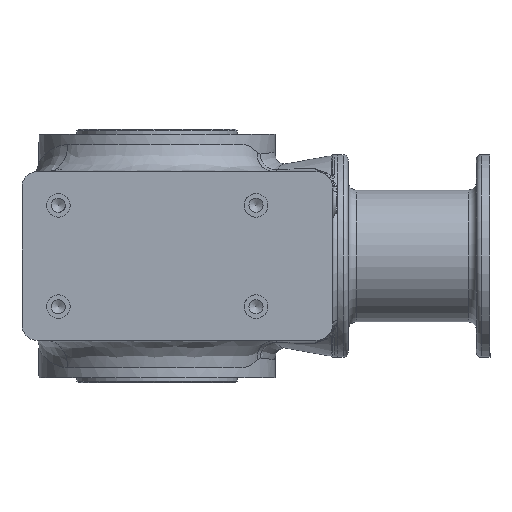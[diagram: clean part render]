
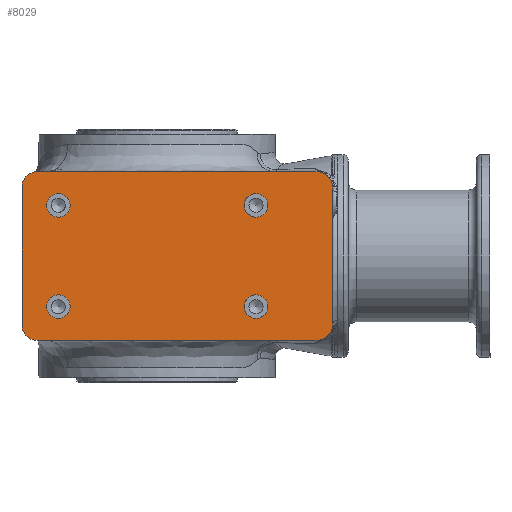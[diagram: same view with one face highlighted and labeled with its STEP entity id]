
A CAD part, front view. The second image highlights one B-rep face of the part: STEP entity #8029.
In plain terms, the highlighted planar face has unit normal (0, -1, 0).
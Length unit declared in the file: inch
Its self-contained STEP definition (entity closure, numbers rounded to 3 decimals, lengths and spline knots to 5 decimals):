
#658=LINE('',#15409,#853);
#664=LINE('',#15854,#859);
#665=LINE('',#15856,#860);
#666=LINE('',#15860,#861);
#853=VECTOR('',#9892,6.49606);
#859=VECTOR('',#10058,6.49606);
#860=VECTOR('',#10059,3.22835);
#861=VECTOR('',#10064,3.14961);
#1085=FACE_BOUND('',#2201,.T.);
#1086=FACE_BOUND('',#2202,.T.);
#1087=FACE_BOUND('',#2203,.T.);
#1088=FACE_BOUND('',#2204,.T.);
#1589=FACE_OUTER_BOUND('',#2200,.T.);
#2200=EDGE_LOOP('',(#5750,#5751,#5752,#5753,#5754,#5755,#5756,#5757));
#2201=EDGE_LOOP('',(#5758));
#2202=EDGE_LOOP('',(#5759));
#2203=EDGE_LOOP('',(#5760));
#2204=EDGE_LOOP('',(#5761));
#2769=CIRCLE('',#8483,0.35433);
#2921=CIRCLE('',#8729,0.3937);
#2922=CIRCLE('',#8731,0.35433);
#2923=CIRCLE('',#8732,0.3937);
#2924=CIRCLE('',#8733,0.27559);
#2925=CIRCLE('',#8734,0.27559);
#2926=CIRCLE('',#8735,0.27559);
#2927=CIRCLE('',#8736,0.27559);
#3314=VERTEX_POINT('',#11545);
#3315=VERTEX_POINT('',#11547);
#3504=VERTEX_POINT('',#15406);
#3505=VERTEX_POINT('',#15408);
#3548=VERTEX_POINT('',#15848);
#3549=VERTEX_POINT('',#15850);
#3550=VERTEX_POINT('',#15855);
#3551=VERTEX_POINT('',#15858);
#3552=VERTEX_POINT('',#15861);
#3553=VERTEX_POINT('',#15863);
#3554=VERTEX_POINT('',#15865);
#3555=VERTEX_POINT('',#15867);
#4057=EDGE_CURVE('',#3314,#3315,#2769,.T.);
#4330=EDGE_CURVE('',#3504,#3505,#658,.T.);
#4389=EDGE_CURVE('',#3548,#3549,#2921,.T.);
#4391=EDGE_CURVE('',#3548,#3315,#664,.T.);
#4392=EDGE_CURVE('',#3550,#3314,#665,.T.);
#4393=EDGE_CURVE('',#3505,#3550,#2922,.T.);
#4394=EDGE_CURVE('',#3551,#3504,#2923,.T.);
#4395=EDGE_CURVE('',#3551,#3549,#666,.T.);
#4396=EDGE_CURVE('',#3552,#3552,#2924,.T.);
#4397=EDGE_CURVE('',#3553,#3553,#2925,.T.);
#4398=EDGE_CURVE('',#3554,#3554,#2926,.T.);
#4399=EDGE_CURVE('',#3555,#3555,#2927,.T.);
#5750=ORIENTED_EDGE('',*,*,#4389,.F.);
#5751=ORIENTED_EDGE('',*,*,#4391,.T.);
#5752=ORIENTED_EDGE('',*,*,#4057,.F.);
#5753=ORIENTED_EDGE('',*,*,#4392,.F.);
#5754=ORIENTED_EDGE('',*,*,#4393,.F.);
#5755=ORIENTED_EDGE('',*,*,#4330,.F.);
#5756=ORIENTED_EDGE('',*,*,#4394,.F.);
#5757=ORIENTED_EDGE('',*,*,#4395,.T.);
#5758=ORIENTED_EDGE('',*,*,#4396,.T.);
#5759=ORIENTED_EDGE('',*,*,#4397,.T.);
#5760=ORIENTED_EDGE('',*,*,#4398,.T.);
#5761=ORIENTED_EDGE('',*,*,#4399,.T.);
#7181=PLANE('',#8730);
#8029=ADVANCED_FACE('',(#1589,#1085,#1086,#1087,#1088),#7181,.T.);
#8483=AXIS2_PLACEMENT_3D('',#11548,#9514,#9515);
#8729=AXIS2_PLACEMENT_3D('',#15851,#10053,#10054);
#8730=AXIS2_PLACEMENT_3D('',#15853,#10056,#10057);
#8731=AXIS2_PLACEMENT_3D('',#15857,#10060,#10061);
#8732=AXIS2_PLACEMENT_3D('',#15859,#10062,#10063);
#8733=AXIS2_PLACEMENT_3D('',#15862,#10065,#10066);
#8734=AXIS2_PLACEMENT_3D('',#15864,#10067,#10068);
#8735=AXIS2_PLACEMENT_3D('',#15866,#10069,#10070);
#8736=AXIS2_PLACEMENT_3D('',#15868,#10071,#10072);
#9514=DIRECTION('center_axis',(0.,1.,0.));
#9515=DIRECTION('ref_axis',(-0.707,0.,0.707));
#9892=DIRECTION('',(-1.,0.,0.));
#10053=DIRECTION('center_axis',(0.,1.,0.));
#10054=DIRECTION('ref_axis',(0.707,0.,0.707));
#10056=DIRECTION('center_axis',(0.,-1.,
0.));
#10057=DIRECTION('ref_axis',(1.,0.,0.));
#10058=DIRECTION('',(-1.,0.,0.));
#10059=DIRECTION('',(0.,0.,1.));
#10060=DIRECTION('center_axis',(0.,1.,0.));
#10061=DIRECTION('ref_axis',(-0.707,0.,-0.707));
#10062=DIRECTION('center_axis',(0.,1.,0.));
#10063=DIRECTION('ref_axis',(0.707,0.,-0.707));
#10064=DIRECTION('',(0.,0.,1.));
#10065=DIRECTION('center_axis',(0.,1.,0.));
#10066=DIRECTION('ref_axis',(1.,0.,0.));
#10067=DIRECTION('center_axis',(0.,1.,0.));
#10068=DIRECTION('ref_axis',(1.,0.,0.));
#10069=DIRECTION('center_axis',(0.,1.,0.));
#10070=DIRECTION('ref_axis',(1.,0.,0.));
#10071=DIRECTION('center_axis',(0.,1.,0.));
#10072=DIRECTION('ref_axis',(1.,0.,0.));
#11545=CARTESIAN_POINT('',(-5.37162,-2.4847,1.6253));
#11547=CARTESIAN_POINT('',(-5.01728,-2.48475,1.97963));
#11548=CARTESIAN_POINT('Origin',(-5.01728,-2.4847,1.6253));
#15406=CARTESIAN_POINT('',(1.47878,-2.48422,-1.95737));
#15408=CARTESIAN_POINT('',(-5.01728,-2.48422,-1.95737));
#15409=CARTESIAN_POINT('',(-5.17477,-2.48422,-1.95737));
#15848=CARTESIAN_POINT('',(1.47878,-2.48475,1.97963));
#15850=CARTESIAN_POINT('',(1.87248,-2.48469,1.58593));
#15851=CARTESIAN_POINT('Origin',(1.47878,-2.48469,1.58593));
#15853=CARTESIAN_POINT('Origin',(-5.17477,-2.48448,0.01113));
#15854=CARTESIAN_POINT('',(-5.17477,-2.48475,1.97963));
#15855=CARTESIAN_POINT('',(-5.37162,-2.48427,-1.60304));
#15856=CARTESIAN_POINT('',(-5.37162,-2.48422,-1.95737));
#15857=CARTESIAN_POINT('Origin',(-5.01728,-2.48427,-1.60304));
#15858=CARTESIAN_POINT('',(1.87248,-2.48427,-1.56367));
#15859=CARTESIAN_POINT('Origin',(1.47878,-2.48427,-1.56367));
#15860=CARTESIAN_POINT('',(1.87248,-2.48448,0.01113));
#15861=CARTESIAN_POINT('',(0.35673,-2.48433,-1.16997));
#15862=CARTESIAN_POINT('Origin',(0.08114,-2.48433,-1.16997));
#15863=CARTESIAN_POINT('',(-4.24957,-2.48464,1.19223));
#15864=CARTESIAN_POINT('Origin',(-4.52516,-2.48464,1.19223));
#15865=CARTESIAN_POINT('',(0.35673,-2.48464,1.19223));
#15866=CARTESIAN_POINT('Origin',(0.08114,-2.48464,1.19223));
#15867=CARTESIAN_POINT('',(-4.24957,-2.48433,-1.16997));
#15868=CARTESIAN_POINT('Origin',(-4.52516,-2.48433,-1.16997));
